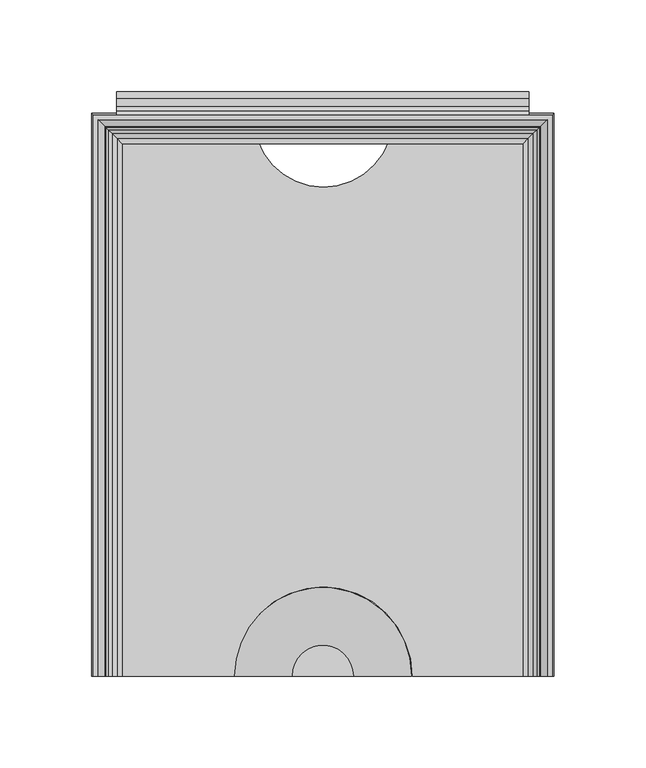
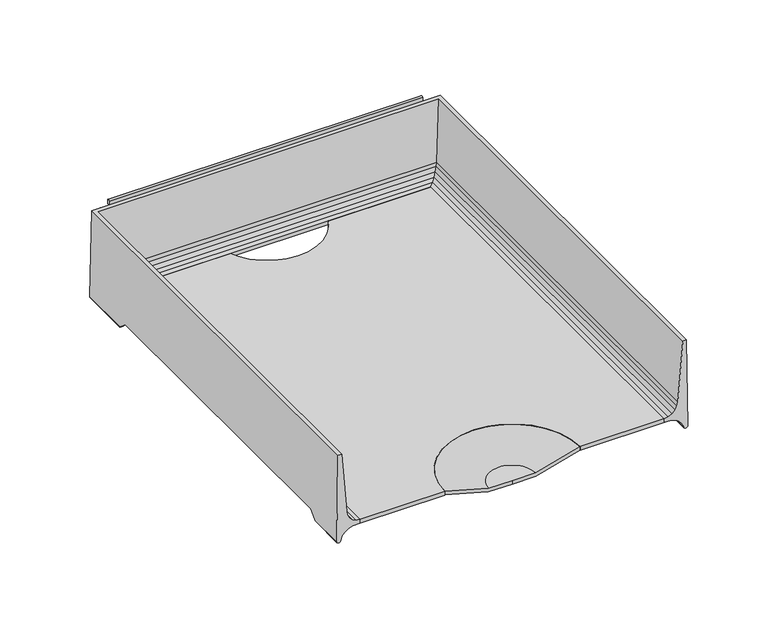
"""IFC4 building model written with IfcOpenShell, lengths in millimetres: furniture geometry."""

from ifc_helpers import new_model, si_unit, point, frame, frame_2d, origin, place, context, project, spatial, polyline, circle_curve, ellipse_curve, trimmed, segment, composite_curve, outline, extrude, source, transform, mapped, element, save
from ifc_brep_helpers import plane_surface, cylinder_surface, revolved_surface, advanced_brep


def furniture_7d92ce93(model_context):
    return source(origin(), model_context, "Body", "SolidModel", [
        advanced_brep(
        [(126.0820502, -154.0206082, 1053.7882489), (125.1325529, -154.0206082, 1119.1876914), (122.4547921, -154.0206082, 1119.1876914), (118.8379747, -154.0206082, 1074.4006003), (118.4123648, -154.0206082, 1071.6671052), (117.0774354, -154.0206082, 1068.9660664), (114.9656457, -154.0206082, 1066.8171015), (112.28832, -154.0206082, 1065.4352261), (109.3133381, -154.0206082, 1064.9587052), (109.3133381, -154.0206082, 1062.1365971), (114.5666739, -154.0206082, 1061.9435987), (117.605351, -154.0206082, 1060.8872218), (120.2416, -154.0206082, 1059.0433822), (122.2762142, -154.0206082, 1056.5514079), (123.1625518, -154.0206082, 1053.5081655), (126.0820502, -127.6379698, 1053.7882489), (126.0026181, -121.5231874, 1059.259372), (126.0026181, 109.0611937, 1059.259372), (126.0820502, 115.1759816, 1053.7882489), (126.0820502, 153.036442, 1053.7882489), (125.1325529, 152.0869447, 1119.1876914), (-125.1325529, 152.0869447, 1119.1876914), (-125.1325529, -154.0206082, 1119.1876914), (-122.4547921, -154.0206082, 1119.1876914), (-122.4547921, 149.4091839, 1119.1876914), (122.4547921, 149.4091839, 1119.1876914), (118.8379747, 145.7923665, 1074.4006003), (118.4123648, 145.3667566, 1071.6671052), (117.0774354, 144.0318272, 1068.9660664), (114.9656457, 141.9200375, 1066.8171015), (112.28832, 139.2427118, 1065.4352261), (109.3133381, 136.2677299, 1064.9587052), (109.3133381, 136.2677299, 1062.1365971), (114.5666739, 141.5210656, 1061.9435987), (117.605351, 144.5597428, 1060.8872218), (120.2416, 147.1959918, 1059.0433822), (120.2416, 109.3025941, 1059.0433822), (119.9327864, 109.0611937, 1059.259372), (119.9327864, -121.5231874, 1059.259372), (120.2416, -121.7645876, 1059.0433822), (122.2762142, -124.5497344, 1056.5514079), (122.2762142, 149.230606, 1056.5514079), (122.2762142, 112.0877435, 1056.5514079), (123.1625518, -127.9510041, 1053.5081655), (123.1625518, 150.1169436, 1053.5081655), (123.1625518, 115.4890162, 1053.5081655), (-126.0820502, 153.036442, 1053.7882489), (-118.8379747, 145.7923665, 1074.4006003), (-118.4123648, 145.3667566, 1071.6671052), (-117.0774354, 144.0318272, 1068.9660664), (-114.9656457, 141.9200375, 1066.8171015), (-112.28832, 139.2427118, 1065.4352261), (-109.3133381, 136.2677299, 1064.9587052), (-109.3133381, 136.2677299, 1062.1365971), (-114.5666739, 141.5210656, 1061.9435987), (-117.605351, 144.5597428, 1060.8872218), (-120.2416, 147.1959918, 1059.0433822), (-122.2762142, 149.230606, 1056.5514079), (-123.1625518, 150.1169436, 1053.5081655), (-126.0820502, -154.0206082, 1053.7882489), (-123.1625518, -154.0206082, 1053.5081655), (-122.2762142, -154.0206082, 1056.5514079), (-120.2416, -154.0206082, 1059.0433822), (-117.605351, -154.0206082, 1060.8872218), (-114.5666739, -154.0206082, 1061.9435987), (-109.3133381, -154.0206082, 1062.1365971), (-109.3133381, -154.0206082, 1064.9587052), (-112.28832, -154.0206082, 1065.4352261), (-114.9656457, -154.0206082, 1066.8171015), (-117.0774354, -154.0206082, 1068.9660664), (-118.4123648, -154.0206082, 1071.6671052), (-118.8379747, -154.0206082, 1074.4006003), (-126.0820502, 115.1759816, 1053.7882489), (-126.0026181, 109.0611937, 1059.259372), (-126.0026181, -121.5231874, 1059.259372), (-126.0820502, -127.6379698, 1053.7882489), (-120.2416, -121.7645876, 1059.0433822), (-119.9327864, -121.5231874, 1059.259372), (-119.9327864, 109.0611937, 1059.259372), (-120.2416, 109.3025941, 1059.0433822), (-122.2762142, 112.0877435, 1056.5514079), (-122.2762142, -124.5497344, 1056.5514079), (-123.1625518, 115.4890162, 1053.5081655), (-123.1625518, -127.9510041, 1053.5081655)],
        [
            (0, 1),
            (1, 2),
            (2, 3),
            (3, 4),
            (4, 5),
            (5, 6),
            (6, 7),
            (7, 8),
            (8, 9),
            (9, 10),
            (10, 11),
            (11, 12),
            (12, 13),
            (13, 14),
            (14, 0, circle_curve(frame((124.5859452, -154.0206082, 1054.0271685), z_axis=(0.0, -1.0, 0.0), x_axis=(-1.0, 0.0, 0.0)), 1.515062)),
            (0, 15),
            (15, 16),
            (16, 17),
            (17, 18),
            (18, 19),
            (19, 20),
            (20, 1),
            (20, 21),
            (21, 22),
            (22, 23),
            (23, 24),
            (24, 25),
            (25, 2),
            (25, 26),
            (26, 3),
            (26, 27),
            (27, 4),
            (27, 28),
            (28, 5),
            (28, 29),
            (29, 6),
            (29, 30),
            (30, 7),
            (30, 31),
            (31, 8),
            (31, 32),
            (32, 9),
            (32, 33),
            (33, 10),
            (33, 34),
            (34, 11),
            (34, 35),
            (35, 36),
            (36, 37),
            (37, 38),
            (38, 39),
            (39, 12),
            (39, 40),
            (40, 13),
            (35, 41),
            (41, 42),
            (42, 36),
            (40, 43),
            (43, 14),
            (41, 44),
            (44, 45),
            (45, 42),
            (43, 15, ellipse_curve(frame((124.5859452, -127.3709422, 1054.0271685), z_axis=(0.0, -0.6667949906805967, 0.7452411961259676), x_axis=(0.0, -0.7452411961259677, -0.6667949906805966)), 2.2721556, 1.515062)),
            (44, 19, ellipse_curve(frame((124.5859452, 151.540337, 1054.0271685), z_axis=(0.7071067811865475, -0.7071067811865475, 0.0), x_axis=(-0.7071067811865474, -0.7071067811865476, 0.0)), 2.1426212, 1.515062)),
            (18, 45, ellipse_curve(frame((124.5859452, 114.9089538, 1054.0271685), z_axis=(0.0, 0.6667946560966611, 0.7452414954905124), x_axis=(0.0, -0.7452414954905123, 0.6667946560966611)), 2.2721567, 1.515062)),
            (19, 46),
            (46, 21),
            (24, 47),
            (47, 26),
            (47, 48),
            (48, 27),
            (48, 49),
            (49, 28),
            (49, 50),
            (50, 29),
            (50, 51),
            (51, 30),
            (51, 52),
            (52, 31),
            (52, 53),
            (53, 32),
            (53, 54),
            (54, 33),
            (54, 55),
            (55, 34),
            (55, 56),
            (56, 35),
            (56, 57),
            (57, 41),
            (57, 58),
            (58, 44),
            (58, 46, ellipse_curve(frame((-124.5859452, 151.540337, 1054.0271685), z_axis=(0.7071067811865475, 0.7071067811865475, 0.0), x_axis=(0.7071067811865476, -0.7071067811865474, 0.0)), 2.1426212, 1.515062)),
            (22, 59),
            (59, 60, circle_curve(frame((-124.5859452, -154.0206082, 1054.0271685), z_axis=(0.0, -1.0, 0.0), x_axis=(1.0, 0.0, 0.0)), 1.515062)),
            (60, 61),
            (61, 62),
            (62, 63),
            (63, 64),
            (64, 65),
            (65, 66),
            (66, 67),
            (67, 68),
            (68, 69),
            (69, 70),
            (70, 71),
            (71, 23),
            (46, 72),
            (72, 73),
            (73, 74),
            (74, 75),
            (75, 59),
            (71, 47),
            (70, 48),
            (69, 49),
            (68, 50),
            (67, 51),
            (66, 52),
            (65, 53),
            (64, 54),
            (63, 55),
            (62, 76),
            (76, 77),
            (77, 78),
            (78, 79),
            (79, 56),
            (79, 80),
            (80, 57),
            (61, 81),
            (81, 76),
            (80, 82),
            (82, 58),
            (60, 83),
            (83, 81),
            (82, 72, ellipse_curve(frame((-124.5859452, 114.9089538, 1054.0271685), z_axis=(0.0, 0.6667946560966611, 0.7452414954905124), x_axis=(0.0, 0.7452414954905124, -0.6667946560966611)), 2.2721567, 1.515062)),
            (75, 83, ellipse_curve(frame((-124.5859452, -127.3709422, 1054.0271685), z_axis=(0.0, -0.6667949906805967, 0.7452411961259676), x_axis=(0.0, 0.7452411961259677, 0.6667949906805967)), 2.2721556, 1.515062)),
            (38, 16),
            (74, 77),
            (37, 17),
            (73, 78),
        ],
        [
            plane_surface(frame((127.0, -154.0206082, 1052.5125), z_axis=(0.0, -1.0, 0.0), x_axis=(0.0, 0.0, 1.0))),
            plane_surface(frame((126.0820502, -154.0206082, 1053.7882489), z_axis=(0.9998946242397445, 0.0, 0.014516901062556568), x_axis=(0.0, 1.0, 0.0))),
            plane_surface(frame((125.1325529, -154.0206082, 1119.1876914), z_axis=(0.0, 0.0, 1.0), x_axis=(0.0, 1.0, 0.0))),
            plane_surface(frame((122.4547921, -154.0206082, 1119.1876914), z_axis=(-0.9967551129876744, 0.0, 0.08049375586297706), x_axis=(0.0, 1.0, 0.0))),
            plane_surface(frame((118.8379747, -154.0206082, 1074.4006003), z_axis=(-0.9880945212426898, 0.0, 0.15384803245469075), x_axis=(0.0, 1.0, 0.0))),
            plane_surface(frame((118.4123648, -154.0206082, 1071.6671052), z_axis=(-0.8964873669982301, 0.0, 0.44306929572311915), x_axis=(0.0, 1.0, 0.0))),
            plane_surface(frame((117.0774354, -154.0206082, 1068.9660664), z_axis=(-0.7132491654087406, 0.0, 0.7009105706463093), x_axis=(0.0, 1.0, 0.0))),
            plane_surface(frame((114.9656457, -154.0206082, 1066.8171015), z_axis=(-0.45865074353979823, 0.0, 0.8886166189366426), x_axis=(0.0, 1.0, 0.0))),
            plane_surface(frame((112.28832, -154.0206082, 1065.4352261), z_axis=(-0.15816001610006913, 0.0, 0.987413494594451), x_axis=(0.0, 1.0, 0.0))),
            plane_surface(frame((109.3133381, -154.0206082, 1064.9587052), z_axis=(-1.0, 0.0, 0.0), x_axis=(0.0, 1.0, 0.0))),
            plane_surface(frame((109.3133381, -154.0206082, 1062.1365971), z_axis=(-0.036713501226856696, 0.0, -0.9993258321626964), x_axis=(0.0, 1.0, 0.0))),
            plane_surface(frame((114.5666739, -154.0206082, 1061.9435987), z_axis=(-0.3283669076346, 0.0, -0.9445502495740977), x_axis=(0.0, 1.0, 0.0))),
            plane_surface(frame((117.605351, -154.0206082, 1060.8872218), z_axis=(-0.5731421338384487, 0.0, -0.819455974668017), x_axis=(0.0, 1.0, 0.0))),
            plane_surface(frame((120.2416, -154.0206082, 1059.0433822), z_axis=(-0.77460799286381, 0.0, -0.6324416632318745), x_axis=(0.0, 1.0, 0.0))),
            plane_surface(frame((122.2762142, -154.0206082, 1056.5514079), z_axis=(-0.9601080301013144, 0.0, -0.2796293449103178), x_axis=(0.0, 1.0, 0.0))),
            cylinder_surface(frame((124.5859452, -154.0206082, 1054.0271685), z_axis=(0.0, -1.0, 0.0), x_axis=(-1.0, 0.0, 0.0)), 1.515062),
            plane_surface(frame((126.0820502, 153.036442, 1053.7882489), z_axis=(0.0, 0.9998946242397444, 0.014516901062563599), x_axis=(-1.0, 0.0, 0.0))),
            plane_surface(frame((122.4547921, 149.4091839, 1119.1876914), z_axis=(0.0, -0.9967551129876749, 0.08049375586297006), x_axis=(-1.0, 0.0, 0.0))),
            plane_surface(frame((118.8379747, 145.7923665, 1074.4006003), z_axis=(0.0, -0.9880945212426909, 0.15384803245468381), x_axis=(-1.0, 0.0, 0.0))),
            plane_surface(frame((118.4123648, 145.3667566, 1071.6671052), z_axis=(0.0, -0.8964873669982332, 0.4430692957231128), x_axis=(-1.0, 0.0, 0.0))),
            plane_surface(frame((117.0774354, 144.0318272, 1068.9660664), z_axis=(0.0, -0.7132491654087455, 0.7009105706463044), x_axis=(-1.0, 0.0, 0.0))),
            plane_surface(frame((114.9656457, 141.9200375, 1066.8171015), z_axis=(0.0, -0.4586507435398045, 0.8886166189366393), x_axis=(-1.0, 0.0, 0.0))),
            plane_surface(frame((112.28832, 139.2427118, 1065.4352261), z_axis=(0.0, -0.15816001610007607, 0.9874134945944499), x_axis=(-1.0, 0.0, 0.0))),
            plane_surface(frame((109.3133381, 136.2677299, 1064.9587052), z_axis=(0.0, -1.0, 0.0), x_axis=(-1.0, 0.0, 0.0))),
            plane_surface(frame((109.3133381, 136.2677299, 1062.1365971), z_axis=(0.0, -0.03671350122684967, -0.9993258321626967), x_axis=(-1.0, 0.0, 0.0))),
            plane_surface(frame((114.5666739, 141.5210656, 1061.9435987), z_axis=(0.0, -0.32836690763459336, -0.9445502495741), x_axis=(-1.0, 0.0, 0.0))),
            plane_surface(frame((117.605351, 144.5597428, 1060.8872218), z_axis=(0.0, -0.5731421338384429, -0.819455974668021), x_axis=(-1.0, 0.0, 0.0))),
            plane_surface(frame((120.2416, 147.1959918, 1059.0433822), z_axis=(0.0, -0.7746079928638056, -0.6324416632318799), x_axis=(-1.0, 0.0, 0.0))),
            plane_surface(frame((122.2762142, 149.230606, 1056.5514079), z_axis=(0.0, -0.9601080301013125, -0.27962934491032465), x_axis=(-1.0, 0.0, 0.0))),
            cylinder_surface(frame((127.0, 151.540337, 1054.0271685), z_axis=(1.0, 0.0, 0.0), x_axis=(0.0, -1.0, 0.0)), 1.515062),
            plane_surface(frame((-127.0, -154.0206082, 1052.5125), z_axis=(0.0, -1.0, 0.0), x_axis=(0.0, 0.0, 1.0))),
            plane_surface(frame((-126.0820502, 153.036442, 1053.7882489), z_axis=(-0.9998946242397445, 0.0, 0.014516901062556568), x_axis=(0.0, -1.0, 0.0))),
            plane_surface(frame((-122.4547921, 149.4091839, 1119.1876914), z_axis=(0.9967551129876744, 0.0, 0.08049375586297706), x_axis=(0.0, -1.0, 0.0))),
            plane_surface(frame((-118.8379747, 145.7923665, 1074.4006003), z_axis=(0.9880945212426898, 0.0, 0.15384803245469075), x_axis=(0.0, -1.0, 0.0))),
            plane_surface(frame((-118.4123648, 145.3667566, 1071.6671052), z_axis=(0.8964873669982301, 0.0, 0.44306929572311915), x_axis=(0.0, -1.0, 0.0))),
            plane_surface(frame((-117.0774354, 144.0318272, 1068.9660664), z_axis=(0.7132491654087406, 0.0, 0.7009105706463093), x_axis=(0.0, -1.0, 0.0))),
            plane_surface(frame((-114.9656457, 141.9200375, 1066.8171015), z_axis=(0.45865074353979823, 0.0, 0.8886166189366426), x_axis=(0.0, -1.0, 0.0))),
            plane_surface(frame((-112.28832, 139.2427118, 1065.4352261), z_axis=(0.15816001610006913, 0.0, 0.987413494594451), x_axis=(0.0, -1.0, 0.0))),
            plane_surface(frame((-109.3133381, 136.2677299, 1064.9587052), z_axis=(1.0, 0.0, 0.0), x_axis=(0.0, -1.0, 0.0))),
            plane_surface(frame((-109.3133381, 136.2677299, 1062.1365971), z_axis=(0.036713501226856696, 0.0, -0.9993258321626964), x_axis=(0.0, -1.0, 0.0))),
            plane_surface(frame((-114.5666739, 141.5210656, 1061.9435987), z_axis=(0.3283669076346, 0.0, -0.9445502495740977), x_axis=(0.0, -1.0, 0.0))),
            plane_surface(frame((-117.605351, 144.5597428, 1060.8872218), z_axis=(0.5731421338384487, 0.0, -0.819455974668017), x_axis=(0.0, -1.0, 0.0))),
            plane_surface(frame((-120.2416, 147.1959918, 1059.0433822), z_axis=(0.77460799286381, 0.0, -0.6324416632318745), x_axis=(0.0, -1.0, 0.0))),
            plane_surface(frame((-122.2762142, 149.230606, 1056.5514079), z_axis=(0.9601080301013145, 0.0, -0.2796293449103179), x_axis=(0.0, -1.0, 0.0))),
            cylinder_surface(frame((-124.5859452, 153.9543918, 1054.0271685), z_axis=(0.0, 1.0, 0.0), x_axis=(1.0, 0.0, 0.0)), 1.515062),
            plane_surface(frame((-127.0, -130.1695728, 1051.5231296), z_axis=(0.0, 0.6667949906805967, -0.7452411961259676), x_axis=(1.0, 0.0, 0.0))),
            plane_surface(frame((-127.0, -121.5231874, 1059.259372), z_axis=(0.0, 0.0, -1.0), x_axis=(1.0, 0.0, 0.0))),
            plane_surface(frame((-127.0, 109.0611937, 1059.259372), z_axis=(0.0, -0.6667946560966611, -0.7452414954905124), x_axis=(1.0, 0.0, 0.0))),
        ],
        [
            (0, [[1, 2, 3, 4, 5, 6, 7, 8, 9, 10, 11, 12, 13, 14, 15]]),
            (1, [[-1, 16, 17, 18, 19, 20, 21, 22]]),
            (2, [[-2, -22, 23, 24, 25, 26, 27, 28]]),
            (3, [[-3, -28, 29, 30]]),
            (4, [[-4, -30, 31, 32]]),
            (5, [[-5, -32, 33, 34]]),
            (6, [[-6, -34, 35, 36]]),
            (7, [[-7, -36, 37, 38]]),
            (8, [[-8, -38, 39, 40]]),
            (9, [[-9, -40, 41, 42]]),
            (10, [[-10, -42, 43, 44]]),
            (11, [[-11, -44, 45, 46]]),
            (12, [[-12, -46, 47, 48, 49, 50, 51, 52]]),
            (13, [[-13, -52, 53, 54]]),
            (13, [[55, 56, 57, -48]]),
            (14, [[-14, -54, 58, 59]]),
            (14, [[60, 61, 62, -56]]),
            (15, [[-15, -59, 63, -16]]),
            (15, [[64, -20, 65, -61]]),
            (16, [[-21, 66, 67, -23]]),
            (17, [[-27, 68, 69, -29]]),
            (18, [[-31, -69, 70, 71]]),
            (19, [[-33, -71, 72, 73]]),
            (20, [[-35, -73, 74, 75]]),
            (21, [[-37, -75, 76, 77]]),
            (22, [[-39, -77, 78, 79]]),
            (23, [[-41, -79, 80, 81]]),
            (24, [[-43, -81, 82, 83]]),
            (25, [[-45, -83, 84, 85]]),
            (26, [[-47, -85, 86, 87]]),
            (27, [[-55, -87, 88, 89]]),
            (28, [[-60, -89, 90, 91]]),
            (29, [[-64, -91, 92, -66]]),
            (30, [[-25, 93, 94, 95, 96, 97, 98, 99, 100, 101, 102, 103, 104, 105, 106]]),
            (31, [[-24, -67, 107, 108, 109, 110, 111, -93]]),
            (32, [[-26, -106, 112, -68]]),
            (33, [[-70, -112, -105, 113]]),
            (34, [[-72, -113, -104, 114]]),
            (35, [[-74, -114, -103, 115]]),
            (36, [[-76, -115, -102, 116]]),
            (37, [[-78, -116, -101, 117]]),
            (38, [[-80, -117, -100, 118]]),
            (39, [[-82, -118, -99, 119]]),
            (40, [[-84, -119, -98, 120]]),
            (41, [[-86, -120, -97, 121, 122, 123, 124, 125]]),
            (42, [[-88, -125, 126, 127]]),
            (42, [[-96, 128, 129, -121]]),
            (43, [[-90, -127, 130, 131]]),
            (43, [[-95, 132, 133, -128]]),
            (44, [[-92, -131, 134, -107]]),
            (44, [[-94, -111, 135, -132]]),
            (45, [[136, -17, -63, -58, -53, -51]]),
            (45, [[137, -122, -129, -133, -135, -110]]),
            (46, [[-136, -50, 138, -18]]),
            (46, [[-137, -109, 139, -123]]),
            (47, [[-138, -49, -57, -62, -65, -19]]),
            (47, [[-139, -108, -134, -130, -126, -124]]),
        ],
    ),
        extrude(outline(composite_curve([segment(polyline([(-109.3647805, 138.2769393), (-35.6610422, 138.2769393)]), True, "CONTINUOUS"), segment(trimmed(circle_curve(frame_2d((0.3369133, 150.6584166)), 38.0677525), [point((-35.6610422, 138.2769393))], [point((36.3348688, 138.2769393))], True, "CARTESIAN"), True, "CONTINUOUS"), segment(polyline([(36.3348688, 138.2769393), (109.6504969, 138.2769393), (109.6504969, -153.9875), (48.9112184, -153.9875)]), True, "CONTINUOUS"), segment(trimmed(circle_curve(frame_2d((0.2842795, -153.9323196)), 48.6269702), [point((48.9112184, -153.9875))], [point((-48.3426595, -153.9875))], True, "CARTESIAN"), True, "CONTINUOUS"), segment(polyline([(-48.3426595, -153.9875), (-109.3647805, -153.9875), (-109.3647805, 138.2769393)]), True, "CONTINUOUS")], self_intersect=False)), frame((0.0, 0.0, 1062.1189677), z_axis=(0.0, 0.0, 1.0), x_axis=(1.0, 0.0, 0.0)), (0.0, 0.0, 1.0), 2.8395461),
        extrude(outline(composite_curve([segment(trimmed(circle_curve(frame_2d((162.7186949, 1103.3582343)), 1.9049988), [point((164.6236937, 1103.3582343))], [point((160.8136962, 1103.3582343))], False, "CARTESIAN"), True, "CONTINUOUS"), segment(polyline([(160.8136962, 1103.3582343), (160.8136962, 1106.7872311), (160.0516969, 1107.5492303), (156.4380325, 1107.5492303), (152.1427596, 1105.2018331), (152.1427596, 1113.7066285), (156.4380325, 1111.3592312), (160.8136928, 1111.3592312)]), True, "CONTINUOUS"), segment(trimmed(circle_curve(frame_2d((160.8136928, 1107.5492303)), 3.8100009), [point((160.8136928, 1111.3592312))], [point((164.6236937, 1107.5492303))], False, "CARTESIAN"), True, "CONTINUOUS"), segment(polyline([(164.6236937, 1107.5492303), (164.6236937, 1103.3582343)]), True, "CONTINUOUS")], self_intersect=False)), frame((-112.5397809, 0.0, 0.0), z_axis=(1.0, 0.0, 0.0), x_axis=(0.0, 1.0, 0.0)), (0.0, 0.0, 1.0), 225.0795617),
        advanced_brep(
        [(-16.8929028, -153.9875, 1056.084375), (-48.4614622, -153.9875, 1064.9920432), (-48.4614622, -153.9875, 1062.4005018), (-16.9249292, -153.9875, 1053.5018704), (0.0, -153.9875, 1053.5018704), (0.0, -153.9875, 1056.084375), (16.8929028, -153.9875, 1056.084375), (16.9249292, -153.9875, 1053.5018704), (48.4614622, -153.9875, 1062.4005018), (48.4614622, -153.9875, 1064.9920432)],
        [
            (0, 1),
            (1, 2),
            (2, 3),
            (3, 4),
            (4, 5),
            (5, 0),
            (6, 5),
            (4, 7),
            (7, 8),
            (8, 9),
            (9, 6),
            (9, 1, circle_curve(frame((0.0, -153.9875, 1064.9920432), z_axis=(0.0, 0.0, 1.0), x_axis=(-1.0, 0.0, 0.0)), 48.4614622)),
            (0, 6, circle_curve(frame((0.0, -153.9875, 1056.084375), z_axis=(0.0, 0.0, -1.0), x_axis=(-1.0, 0.0, 0.0)), 16.8929028)),
            (8, 2, circle_curve(frame((0.0, -153.9875, 1062.4005018), z_axis=(0.0, 0.0, 1.0), x_axis=(-1.0, 0.0, 0.0)), 48.4614622)),
            (7, 3, circle_curve(frame((0.0, -153.9875, 1053.5018704), z_axis=(0.0, 0.0, 1.0), x_axis=(-1.0, 0.0, 0.0)), 16.9249292)),
        ],
        [
            plane_surface(frame((0.0, -153.9875, 1052.5125), z_axis=(0.0, -1.0, 0.0), x_axis=(-1.0, 0.0, 0.0))),
            plane_surface(frame((0.0, -153.9875, 1052.5125), z_axis=(0.0, -1.0, 0.0), x_axis=(1.0, 0.0, 0.0))),
            revolved_surface(polyline([(-48.4614622, -153.9875, 1064.9920432), (-16.8929028, -153.9875, 1056.084375)]), (0.0, -153.9875, 1052.5125), (0.0, 0.0, 1.0)),
            cylinder_surface(frame((0.0, -153.9875, 1052.5125), z_axis=(0.0, 0.0, 1.0), x_axis=(-1.0, 0.0, 0.0)), 48.4614622),
            revolved_surface(polyline([(-16.9249292, -153.9875, 1053.5018704), (-48.4614622, -153.9875, 1062.4005018)]), (0.0, -153.9875, 1052.5125), (0.0, 0.0, 1.0)),
            plane_surface(frame((0.0, -153.9875, 1053.5018704), z_axis=(0.0, 0.0, -1.0), x_axis=(-1.0, 0.0, 0.0))),
            plane_surface(frame((0.0, -153.9875, 1056.084375), z_axis=(0.0, 0.0, 1.0), x_axis=(-1.0, 0.0, 0.0))),
        ],
        [
            (0, [[1, 2, 3, 4, 5, 6]]),
            (1, [[7, -5, 8, 9, 10, 11]]),
            (2, [[12, -1, 13, -11]]),
            (3, [[14, -2, -12, -10]]),
            (4, [[15, -3, -14, -9]]),
            (5, [[-4, -15, -8]]),
            (6, [[-13, -6, -7]]),
        ],
    ),
        extrude(outline(composite_curve([segment(polyline([(153.9875, 1119.1875), (152.1427596, 1119.1875), (152.1427596, 1122.0190333)]), True, "CONTINUOUS"), segment(trimmed(circle_curve(frame_2d((153.0651298, 1121.7137665)), 0.9715733), [point((152.1427596, 1122.0190333))], [point((153.9875, 1122.0190333))], False, "CARTESIAN"), True, "CONTINUOUS"), segment(polyline([(153.9875, 1122.0190333), (153.9875, 1119.1875)]), True, "CONTINUOUS")], self_intersect=False)), frame((-112.5397809, 0.0, 0.0), z_axis=(1.0, 0.0, 0.0), x_axis=(0.0, 1.0, 0.0)), (0.0, 0.0, 1.0), 225.0795617),
    ])


if __name__ == "__main__":
    model = new_model("IFC4")
    model_context = context("Model", 3, world=origin())
    ifc_project = project(units=[si_unit("LENGTHUNIT", "METRE", prefix="MILLI")], contexts=[model_context])
    site = spatial("IfcSite", under=ifc_project)
    building = spatial("IfcBuilding", under=site)
    placement = place(None, origin())
    furniture_shape = furniture_7d92ce93(model_context)
    element("IfcFurniture", 1, ObjectType="HermanMiller_ThrivePortfolio_Y7216_PaperTray : 3\"H x 12\"D x 10\"W", at=placement, inside=building, context=model_context, shape_type="MappedRepresentation", body=[
        mapped(furniture_shape, transform((0.0, 0.0, 0.0), x_axis=(1.0, 0.0, 0.0), y_axis=(0.0, 1.0, 0.0), z_axis=(0.0, 0.0, 1.0))),
    ])
    save(model, "model.ifc")
